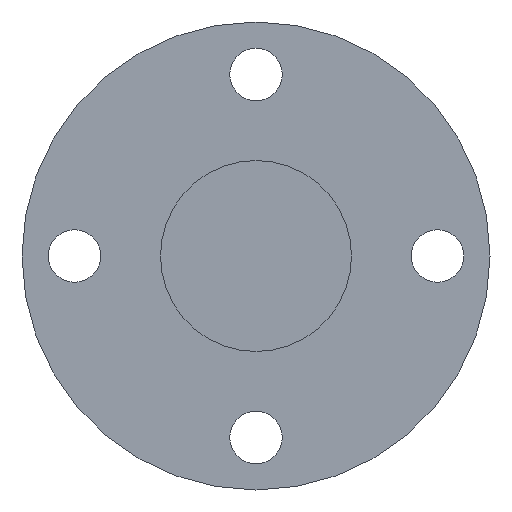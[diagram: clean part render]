
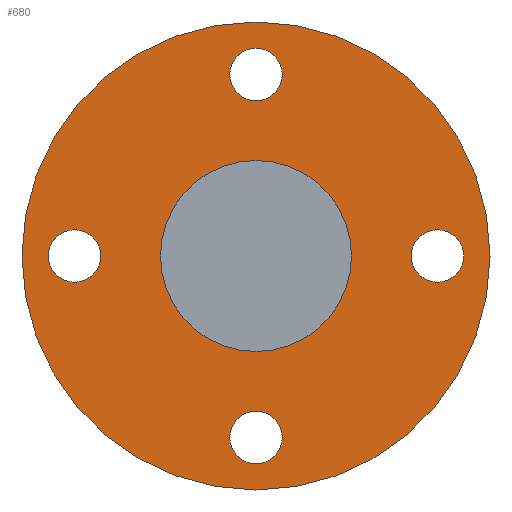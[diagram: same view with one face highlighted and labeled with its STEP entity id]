
A CAD part, left-side view. The second image highlights one B-rep face of the part: STEP entity #680.
In plain terms, the highlighted planar face has unit normal (-1, 0, 0).
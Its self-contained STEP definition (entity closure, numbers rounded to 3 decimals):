
#569=CARTESIAN_POINT('',(115.0,38.0,-5.5));
#570=VERTEX_POINT('',#569);
#571=CARTESIAN_POINT('',(115.0,38.0,0.));
#572=DIRECTION('',(1.0,0.0,0.0));
#573=DIRECTION('',(0.0,0.0,-1.0));
#574=AXIS2_PLACEMENT_3D('',#571,#572,#573);
#575=CIRCLE('',#574,5.5);
#576=EDGE_CURVE('',#570,#570,#575,.T.);
#589=CARTESIAN_POINT('',(115.0,-5.5,-38.0));
#590=VERTEX_POINT('',#589);
#591=CARTESIAN_POINT('',(115.0,0.,-38.0));
#592=DIRECTION('',(1.0,0.0,0.0));
#593=DIRECTION('',(0.0,-1.0,0.0));
#594=AXIS2_PLACEMENT_3D('',#591,#592,#593);
#595=CIRCLE('',#594,5.5);
#596=EDGE_CURVE('',#590,#590,#595,.T.);
#609=CARTESIAN_POINT('',(115.0,-38.0,5.5));
#610=VERTEX_POINT('',#609);
#611=CARTESIAN_POINT('',(115.0,-38.0,0.));
#612=DIRECTION('',(1.0,0.0,0.0));
#613=DIRECTION('',(0.0,0.0,1.0));
#614=AXIS2_PLACEMENT_3D('',#611,#612,#613);
#615=CIRCLE('',#614,5.5);
#616=EDGE_CURVE('',#610,#610,#615,.T.);
#629=CARTESIAN_POINT('',(115.0,5.5,38.0));
#630=VERTEX_POINT('',#629);
#631=CARTESIAN_POINT('',(115.0,0.0,38.0));
#632=DIRECTION('',(1.0,0.0,0.0));
#633=DIRECTION('',(0.0,1.0,0.0));
#634=AXIS2_PLACEMENT_3D('',#631,#632,#633);
#635=CIRCLE('',#634,5.5);
#636=EDGE_CURVE('',#630,#630,#635,.T.);
#641=CARTESIAN_POINT('',(115.0,0.0,34.5));
#642=DIRECTION('',(-1.0,0.0,0.0));
#643=DIRECTION('',(0.0,0.0,1.0));
#644=AXIS2_PLACEMENT_3D('',#641,#642,#643);
#645=PLANE('',#644);
#646=CARTESIAN_POINT('',(115.0,0.0,49.0));
#647=VERTEX_POINT('',#646);
#648=CARTESIAN_POINT('',(115.0,0.0,0.0));
#649=DIRECTION('',(-1.0,0.0,0.0));
#650=DIRECTION('',(0.0,0.0,1.0));
#651=AXIS2_PLACEMENT_3D('',#648,#649,#650);
#652=CIRCLE('',#651,49.0);
#653=EDGE_CURVE('',#647,#647,#652,.T.);
#654=ORIENTED_EDGE('',*,*,#653,.T.);
#655=EDGE_LOOP('',(#654));
#656=FACE_OUTER_BOUND('',#655,.T.);
#657=ORIENTED_EDGE('',*,*,#576,.T.);
#658=EDGE_LOOP('',(#657));
#659=FACE_BOUND('',#658,.T.);
#660=ORIENTED_EDGE('',*,*,#596,.T.);
#661=EDGE_LOOP('',(#660));
#662=FACE_BOUND('',#661,.T.);
#663=ORIENTED_EDGE('',*,*,#616,.T.);
#664=EDGE_LOOP('',(#663));
#665=FACE_BOUND('',#664,.T.);
#666=ORIENTED_EDGE('',*,*,#636,.T.);
#667=EDGE_LOOP('',(#666));
#668=FACE_BOUND('',#667,.T.);
#669=CARTESIAN_POINT('',(115.0,0.0,20.));
#670=VERTEX_POINT('',#669);
#671=CARTESIAN_POINT('',(115.0,0.0,0.0));
#672=DIRECTION('',(-1.0,0.0,0.0));
#673=DIRECTION('',(0.0,0.0,1.0));
#674=AXIS2_PLACEMENT_3D('',#671,#672,#673);
#675=CIRCLE('',#674,20.);
#676=EDGE_CURVE('',#670,#670,#675,.T.);
#677=ORIENTED_EDGE('',*,*,#676,.F.);
#678=EDGE_LOOP('',(#677));
#679=FACE_BOUND('',#678,.T.);
#680=ADVANCED_FACE('',(#656,#659,#662,#665,#668,#679),#645,.T.);
